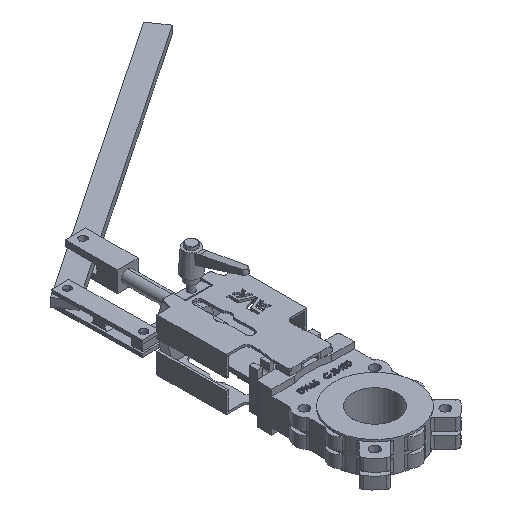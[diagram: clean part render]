
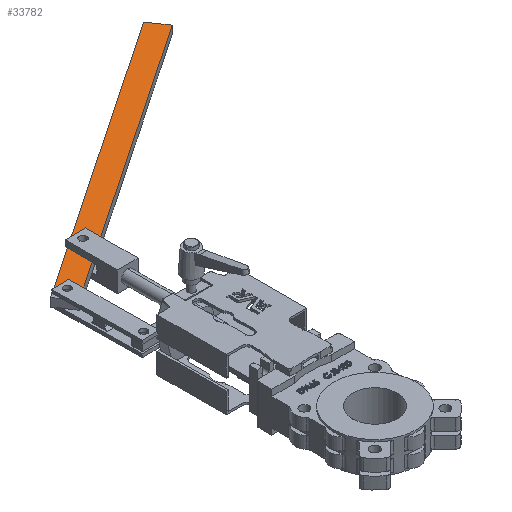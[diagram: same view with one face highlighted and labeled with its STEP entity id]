
A CAD part, isometric view. The second image highlights one B-rep face of the part: STEP entity #33782.
In plain terms, the highlighted planar face has unit normal (0, 0, 1).
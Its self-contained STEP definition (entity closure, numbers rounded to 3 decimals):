
#970 = EDGE_LOOP ( 'NONE', ( #6077, #16353 ) ) ;
#2796 = ORIENTED_EDGE ( 'NONE', *, *, #17027, .T. ) ;
#3422 = EDGE_CURVE ( 'NONE', #25966, #5893, #20023, .T. ) ;
#3563 = VERTEX_POINT ( 'NONE', #4923 ) ;
#4019 = CARTESIAN_POINT ( 'NONE',  ( 0., 0., 10.5 ) ) ;
#4923 = CARTESIAN_POINT ( 'NONE',  ( -5.25, 424.5, 10.5 ) ) ;
#5067 = LINE ( 'NONE', #27361, #22491 ) ;
#5401 = CARTESIAN_POINT ( 'NONE',  ( 5.25, 424.5, 10.5 ) ) ;
#5543 = FACE_OUTER_BOUND ( 'NONE', #12049, .T. ) ;
#5660 = LINE ( 'NONE', #11195, #30718 ) ;
#5893 = VERTEX_POINT ( 'NONE', #24242 ) ;
#6077 = ORIENTED_EDGE ( 'NONE', *, *, #9508, .T. ) ;
#7364 = VERTEX_POINT ( 'NONE', #32633 ) ;
#8212 = CARTESIAN_POINT ( 'NONE',  ( 342.137, 637.041, 10.5 ) ) ;
#9448 = DIRECTION ( 'NONE',  ( 0., 0., -1. ) ) ;
#9491 = CARTESIAN_POINT ( 'NONE',  ( -89.231, 382.44, 10.5 ) ) ;
#9508 = EDGE_CURVE ( 'NONE', #17716, #3563, #20662, .T. ) ;
#9742 = DIRECTION ( 'NONE',  ( 0.829, 0.559, 0. ) ) ;
#11195 = CARTESIAN_POINT ( 'NONE',  ( 342.137, 637.041, 10.5 ) ) ;
#11730 = VERTEX_POINT ( 'NONE', #8212 ) ;
#11791 = CARTESIAN_POINT ( 'NONE',  ( 325.368, 661.917, 10.5 ) ) ;
#12049 = EDGE_LOOP ( 'NONE', ( #34263, #2796, #29316, #19262, #30297 ) ) ;
#12208 = CARTESIAN_POINT ( 'NONE',  ( 0., 424.5, 10.5 ) ) ;
#12363 = DIRECTION ( 'NONE',  ( 0., 0., -1. ) ) ;
#13132 = DIRECTION ( 'NONE',  ( 0., 0., -1. ) ) ;
#13331 = VECTOR ( 'NONE', #35953, 1000. ) ;
#14668 = EDGE_CURVE ( 'NONE', #11730, #7364, #5660, .T. ) ;
#16332 = VECTOR ( 'NONE', #9742, 1000. ) ;
#16353 = ORIENTED_EDGE ( 'NONE', *, *, #19195, .T. ) ;
#16375 = DIRECTION ( 'NONE',  ( 1., 0., 0. ) ) ;
#16921 = VECTOR ( 'NONE', #29251, 1000. ) ;
#17027 = EDGE_CURVE ( 'NONE', #25966, #7364, #5067, .T. ) ;
#17716 = VERTEX_POINT ( 'NONE', #5401 ) ;
#18423 = DIRECTION ( 'NONE',  ( 1., 0., 0. ) ) ;
#18455 = DIRECTION ( 'NONE',  ( -1., 0., 0. ) ) ;
#18456 = FACE_BOUND ( 'NONE', #970, .T. ) ;
#19195 = EDGE_CURVE ( 'NONE', #3563, #17716, #21891, .T. ) ;
#19262 = ORIENTED_EDGE ( 'NONE', *, *, #20707, .F. ) ;
#20023 = LINE ( 'NONE', #24402, #13331 ) ;
#20338 = LINE ( 'NONE', #9491, #16332 ) ;
#20347 = PLANE ( 'NONE',  #29881 ) ;
#20662 = CIRCLE ( 'NONE', #21621, 5.25 ) ;
#20707 = EDGE_CURVE ( 'NONE', #21068, #11730, #21454, .T. ) ;
#21068 = VERTEX_POINT ( 'NONE', #11791 ) ;
#21454 = LINE ( 'NONE', #23840, #16921 ) ;
#21621 = AXIS2_PLACEMENT_3D ( 'NONE', #24787, #13132, #16375 ) ;
#21891 = CIRCLE ( 'NONE', #36943, 5.25 ) ;
#22491 = VECTOR ( 'NONE', #25214, 1000. ) ;
#23840 = CARTESIAN_POINT ( 'NONE',  ( 325.368, 661.917, 10.5 ) ) ;
#24242 = CARTESIAN_POINT ( 'NONE',  ( -82.724, 386.826, 10.5 ) ) ;
#24402 = CARTESIAN_POINT ( 'NONE',  ( -83.114, 386.821, 10.5 ) ) ;
#24787 = CARTESIAN_POINT ( 'NONE',  ( 0., 424.5, 10.5 ) ) ;
#25214 = DIRECTION ( 'NONE',  ( 0.013, -1., 0. ) ) ;
#25966 = VERTEX_POINT ( 'NONE', #32117 ) ;
#26536 = EDGE_CURVE ( 'NONE', #5893, #21068, #20338, .T. ) ;
#27361 = CARTESIAN_POINT ( 'NONE',  ( -58.117, 387.157, 10.5 ) ) ;
#28222 = DIRECTION ( 'NONE',  ( -0.829, -0.559, 0. ) ) ;
#29251 = DIRECTION ( 'NONE',  ( 0.559, -0.829, 0. ) ) ;
#29316 = ORIENTED_EDGE ( 'NONE', *, *, #14668, .F. ) ;
#29881 = AXIS2_PLACEMENT_3D ( 'NONE', #4019, #12363, #18455 ) ;
#30297 = ORIENTED_EDGE ( 'NONE', *, *, #26536, .F. ) ;
#30718 = VECTOR ( 'NONE', #28222, 1000. ) ;
#32117 = CARTESIAN_POINT ( 'NONE',  ( -58.117, 387.157, 10.5 ) ) ;
#32633 = CARTESIAN_POINT ( 'NONE',  ( -57.851, 367.414, 10.5 ) ) ;
#33782 = ADVANCED_FACE ( 'NONE', ( #18456, #5543 ), #20347, .F. ) ;
#34263 = ORIENTED_EDGE ( 'NONE', *, *, #3422, .F. ) ;
#35953 = DIRECTION ( 'NONE',  ( -1., -0.013, 0. ) ) ;
#36943 = AXIS2_PLACEMENT_3D ( 'NONE', #12208, #9448, #18423 ) ;
